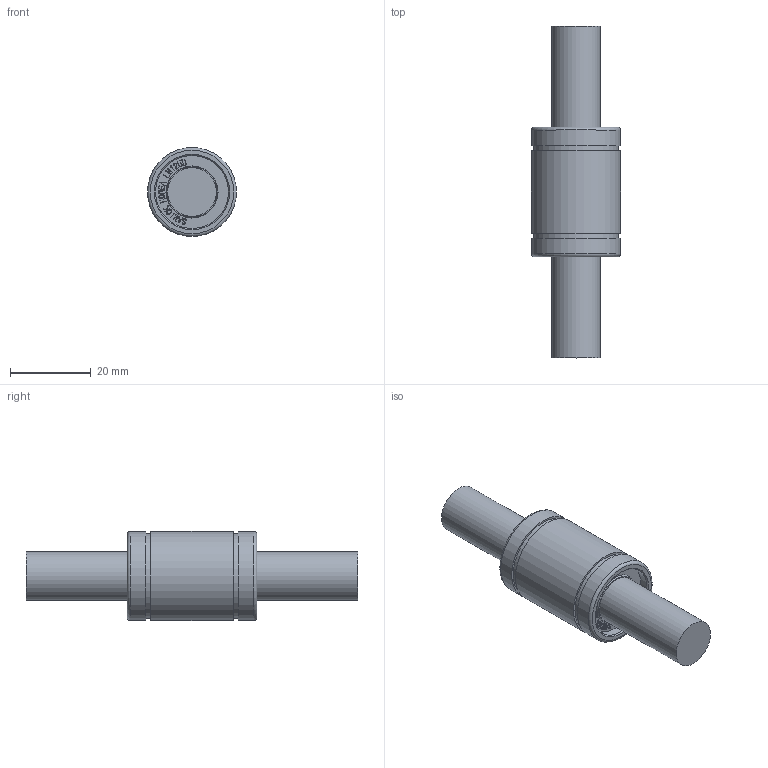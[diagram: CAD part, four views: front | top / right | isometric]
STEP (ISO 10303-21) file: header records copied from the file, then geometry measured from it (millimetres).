
FILE_DESCRIPTION(/* description */ (''),/* implementation_level */ '2;1');
FILE_NAME(/* name */ 'W:\(01) 2024년 홈페이지 CAD파일 최신화\LME\IPT\LME12UU.stp',/* time_stamp */ '2025-01-25T08:55:01+09:00',/* author */ ('서우현'),/* organization */ (''),/* preprocessor_version */ 'ST-DEVELOPER v17.2',/* originating_system */ 'Autodesk Inventor 2019',/* authorisation */ '');
FILE_SCHEMA (('AUTOMOTIVE_DESIGN { 1 0 10303 214 3 1 1 }'));
Length unit declared in the file: millimetre
Products named in the file (1): LM5
Bounding box: 22 x 82 x 22 mm (x, y, z)
Volume: 17076 mm3; surface area: 5369.3 mm2
Topology: 1 solids, 1 shells, 825 faces, 2335 edges, 1564 vertices
Faces by surface type: bspline 580, plane 230, cylinder 9, cone 4, torus 2
Full cylindrical faces by diameter (mm): 12 x2, 18 x2, 21 x2, 22 x3
Entity records: 28239 total; most frequent: CARTESIAN_POINT 9945, ORIENTED_EDGE 4670, EDGE_CURVE 2335, DIRECTION 1721, VERTEX_POINT 1564, B_SPLINE_CURVE_WITH_KNOTS 1160, LINE 1121, VECTOR 1121
